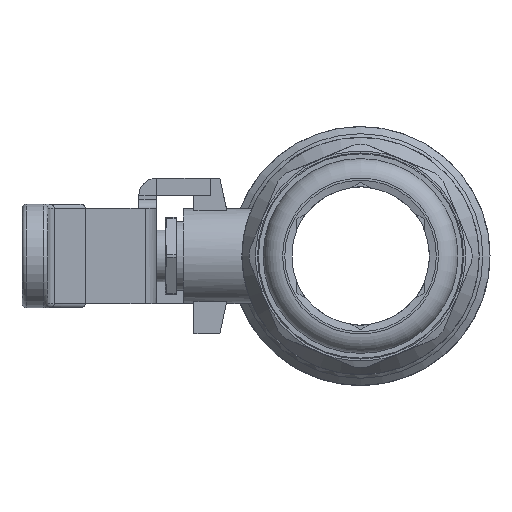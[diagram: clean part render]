
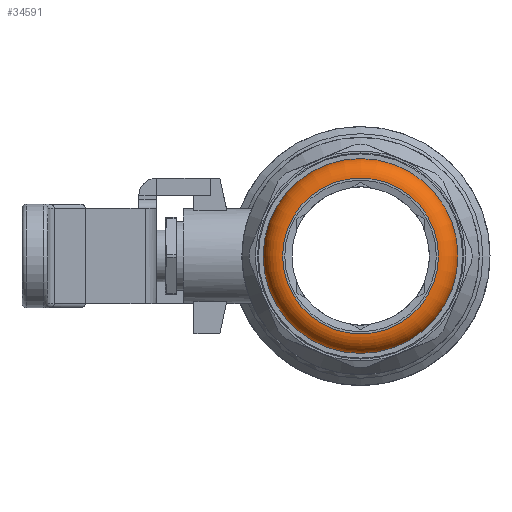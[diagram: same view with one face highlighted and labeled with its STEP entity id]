
A CAD part, left-side view. The second image highlights one B-rep face of the part: STEP entity #34591.
In plain terms, the highlighted toroidal (fillet/blend) face has major radius 18 mm and minor radius 4.5 mm.
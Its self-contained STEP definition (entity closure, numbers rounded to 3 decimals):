
#34301=CARTESIAN_POINT('',(-76.2,0.0,-18.0));
#34302=VERTEX_POINT('',#34301);
#34303=CARTESIAN_POINT('',(-76.2,0.0,0.0));
#34304=DIRECTION('',(1.0,0.0,0.0));
#34305=DIRECTION('',(0.0,0.0,-1.0));
#34306=AXIS2_PLACEMENT_3D('',#34303,#34304,#34305);
#34307=CIRCLE('',#34306,18.);
#34308=EDGE_CURVE('',#34302,#34302,#34307,.T.);
#34568=CARTESIAN_POINT('',(-69.45,0.0,-21.897));
#34569=VERTEX_POINT('',#34568);
#34570=CARTESIAN_POINT('',(-69.45,0.0,0.0));
#34571=DIRECTION('',(1.0,0.0,0.0));
#34572=DIRECTION('',(0.0,0.0,-1.0));
#34573=AXIS2_PLACEMENT_3D('',#34570,#34571,#34572);
#34574=CIRCLE('',#34573,21.897);
#34575=EDGE_CURVE('',#34569,#34569,#34574,.T.);
#34580=CARTESIAN_POINT('',(-71.7,0.,0.));
#34581=DIRECTION('',(1.0,0.,0.));
#34582=DIRECTION('',(0.0,-1.0,0.0));
#34583=AXIS2_PLACEMENT_3D('',#34580,#34581,#34582);
#34584=TOROIDAL_SURFACE('',#34583,18.,4.5);
#34585=ORIENTED_EDGE('',*,*,#34308,.T.);
#34586=EDGE_LOOP('',(#34585));
#34587=FACE_OUTER_BOUND('',#34586,.T.);
#34588=ORIENTED_EDGE('',*,*,#34575,.F.);
#34589=EDGE_LOOP('',(#34588));
#34590=FACE_BOUND('',#34589,.T.);
#34591=ADVANCED_FACE('',(#34587,#34590),#34584,.T.);
